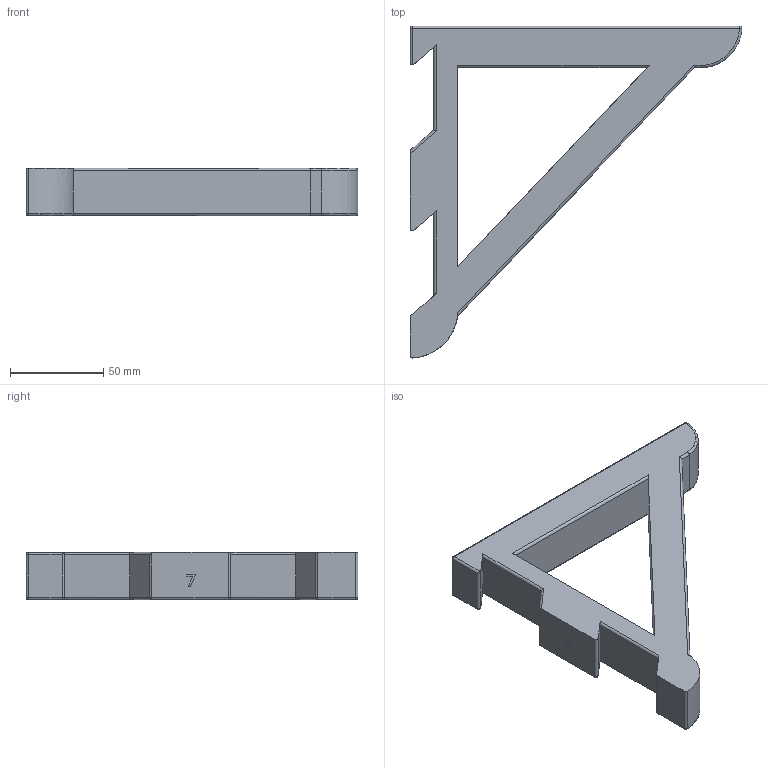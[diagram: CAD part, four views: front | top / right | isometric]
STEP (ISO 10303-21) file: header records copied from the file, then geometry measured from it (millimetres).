
FILE_DESCRIPTION(/* description */ ('STEP AP242','CAx-IF Rec.Pracs.---Representation and Presentation of Product Manufacturing Information (PMI)---4.0---2014-10-13','CAx-IF Rec.Pracs.---3D Tessellated Geometry---0.4---2014-09-14','2;1'),/* implementation_level */ '2;1');
FILE_NAME(/* name */ '677e141e248f3576865291fa',/* time_stamp */ '2025-01-08T05:58:54Z',/* author */ (''),/* organization */ (''),/* preprocessor_version */ 'ST-DEVELOPER v20',/* originating_system */ 'ONSHAPE BY PTC INC, 1.191',/* authorisation */ ' ');
FILE_SCHEMA (('AP242_MANAGED_MODEL_BASED_3D_ENGINEERING_MIM_LF { 1 0 10303 442 1 1 4 }'));
Length unit declared in the file: metre
Products named in the file (1): Shelf Bracket-7
Bounding box: 177.76 x 177.77 x 25.4 mm (x, y, z)
Volume: 242715.8 mm3; surface area: 44442.5 mm2
Topology: 1 solids, 1 shells, 69 faces, 167 edges, 92 vertices
Faces by surface type: cylinder 32, plane 25, sphere 9, torus 3
Entity records: 1943 total; most frequent: DIRECTION 350, CARTESIAN_POINT 337, ORIENTED_EDGE 316, EDGE_CURVE 158, AXIS2_PLACEMENT_3D 126, LINE 98, VECTOR 98, VERTEX_POINT 92
